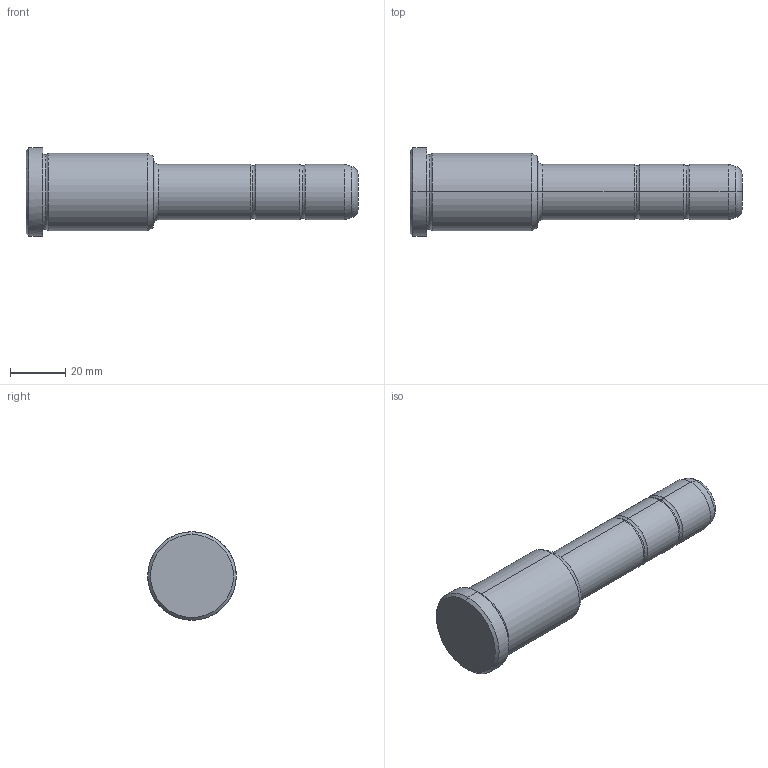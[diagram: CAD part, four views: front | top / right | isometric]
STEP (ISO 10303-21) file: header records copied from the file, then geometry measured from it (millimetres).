
FILE_DESCRIPTION(('CATIA V5 STEP Exchange'),'2;1');
FILE_NAME('C:\Users\Utente\Desktop\IO LAVORO\3D X SITO CF\X SITO\PLASTICA\351\351-20X46X120.stp','2021-08-27T12:56:22+00:00',('none'),('none'),'CATIA Version 5 Release 20 GA (IN-10)','CATIA V5 STEP AP203','none');
FILE_SCHEMA(('CONFIG_CONTROL_DESIGN'));
Length unit declared in the file: millimetre
Products named in the file (1): 351-20X46X120
Bounding box: 120 x 32 x 32 mm (x, y, z)
Volume: 52211.1 mm3; surface area: 10113.9 mm2
Topology: 1 solids, 1 shells, 36 faces, 102 edges, 70 vertices
Faces by surface type: torus 16, cylinder 10, cone 6, plane 4
Entity records: 1292 total; most frequent: CARTESIAN_POINT 321, ORIENTED_EDGE 204, DIRECTION 166, AXIS2_PLACEMENT_3D 115, EDGE_CURVE 102, CIRCLE 78, VERTEX_POINT 70, EDGE_LOOP 38
